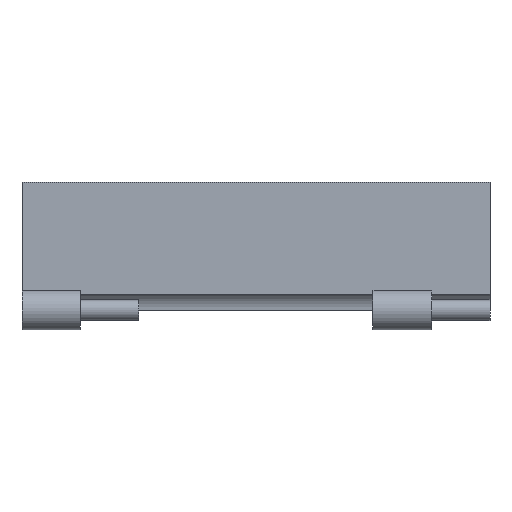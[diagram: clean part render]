
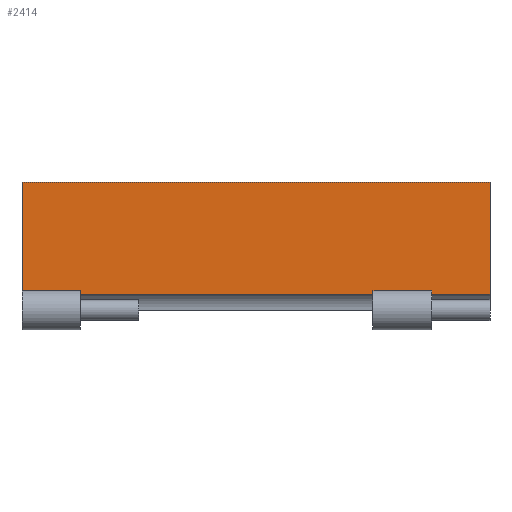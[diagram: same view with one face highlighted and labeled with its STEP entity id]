
A CAD part, front view. The second image highlights one B-rep face of the part: STEP entity #2414.
In plain terms, the highlighted planar face has unit normal (0, -1, 0).
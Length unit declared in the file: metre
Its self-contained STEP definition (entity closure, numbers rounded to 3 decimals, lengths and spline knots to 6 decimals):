
#305=ORIENTED_EDGE('',*,*,#929,.T.);
#306=ORIENTED_EDGE('',*,*,#976,.T.);
#307=ORIENTED_EDGE('',*,*,#918,.T.);
#308=ORIENTED_EDGE('',*,*,#977,.T.);
#309=ORIENTED_EDGE('',*,*,#978,.T.);
#310=ORIENTED_EDGE('',*,*,#807,.F.);
#311=ORIENTED_EDGE('',*,*,#952,.F.);
#807=EDGE_CURVE('',#1155,#1156,#1387,.T.);
#918=EDGE_CURVE('',#1263,#1261,#1492,.F.);
#929=EDGE_CURVE('',#1266,#1273,#1501,.T.);
#952=EDGE_CURVE('',#1266,#1155,#1524,.T.);
#976=EDGE_CURVE('',#1273,#1263,#1542,.F.);
#977=EDGE_CURVE('',#1261,#1304,#1543,.F.);
#978=EDGE_CURVE('',#1304,#1156,#1544,.F.);
#1155=VERTEX_POINT('',#3414);
#1156=VERTEX_POINT('',#3416);
#1261=VERTEX_POINT('',#3637);
#1263=VERTEX_POINT('',#3640);
#1266=VERTEX_POINT('',#3647);
#1273=VERTEX_POINT('',#3661);
#1304=VERTEX_POINT('',#3753);
#1387=LINE('',#3415,#1699);
#1492=LINE('',#3639,#1804);
#1501=LINE('',#3662,#1813);
#1524=LINE('',#3707,#1836);
#1542=LINE('',#3751,#1854);
#1543=LINE('',#3752,#1855);
#1544=LINE('',#3754,#1856);
#1699=VECTOR('',#2739,1.);
#1804=VECTOR('',#2868,1.);
#1813=VECTOR('',#2883,1.);
#1836=VECTOR('',#2920,1.);
#1854=VECTOR('',#2960,1.);
#1855=VECTOR('',#2961,1.);
#1856=VECTOR('',#2962,1.);
#2010=EDGE_LOOP('',(#305,#306,#307,#308,#309,#310,#311));
#2172=FACE_BOUND('',#2010,.T.);
#2308=PLANE('',#2564);
#2414=ADVANCED_FACE('',(#2172),#2308,.F.);
#2564=AXIS2_PLACEMENT_3D('',#3750,#2958,#2959);
#2739=DIRECTION('',(0.,0.,-1.));
#2868=DIRECTION('',(-1.,0.,0.));
#2883=DIRECTION('',(0.,0.,-1.));
#2920=DIRECTION('',(1.,0.,0.));
#2958=DIRECTION('',(0.,1.,0.));
#2959=DIRECTION('',(0.,0.,1.));
#2960=DIRECTION('',(-1.,0.,0.));
#2961=DIRECTION('',(-1.,0.,0.));
#2962=DIRECTION('',(-1.,0.,0.));
#3414=CARTESIAN_POINT('',(0.05685,-0.0038,0.03115));
#3415=CARTESIAN_POINT('',(0.05685,-0.0038,0.0126));
#3416=CARTESIAN_POINT('',(0.05685,-0.0038,0.003899));
#3637=CARTESIAN_POINT('',(0.028425,-0.0038,0.003899));
#3639=CARTESIAN_POINT('',(0.05685,-0.0038,0.003899));
#3640=CARTESIAN_POINT('',(-0.042638,-0.0038,0.003899));
#3647=CARTESIAN_POINT('',(-0.05685,-0.0038,0.03115));
#3661=CARTESIAN_POINT('',(-0.05685,-0.0038,0.003899));
#3662=CARTESIAN_POINT('',(-0.05685,-0.0038,0.0126));
#3707=CARTESIAN_POINT('',(0.,-0.0038,0.03115));
#3750=CARTESIAN_POINT('',(0.,-0.0038,0.0126));
#3751=CARTESIAN_POINT('',(0.05685,-0.0038,0.003899));
#3752=CARTESIAN_POINT('',(0.05685,-0.0038,0.003899));
#3753=CARTESIAN_POINT('',(0.042638,-0.0038,0.003899));
#3754=CARTESIAN_POINT('',(0.05685,-0.0038,0.003899));
